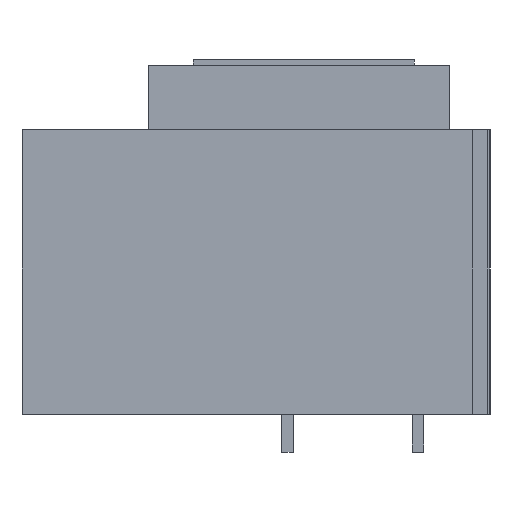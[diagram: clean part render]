
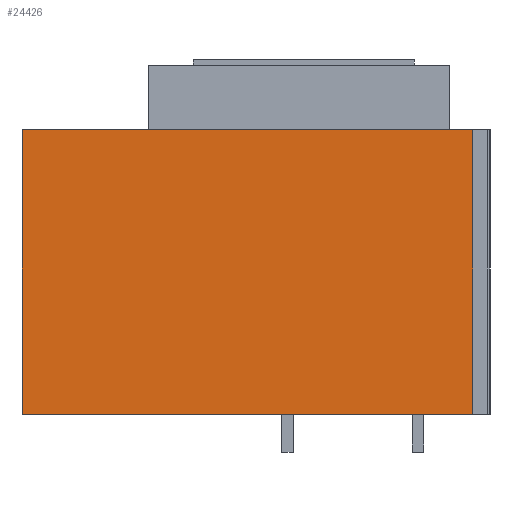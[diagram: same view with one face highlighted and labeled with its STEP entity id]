
A CAD part, left-side view. The second image highlights one B-rep face of the part: STEP entity #24426.
In plain terms, the highlighted planar face has unit normal (-1, 0, 0).
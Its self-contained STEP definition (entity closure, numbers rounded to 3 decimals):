
#684 = EDGE_CURVE ( 'NONE', #7224, #29230, #19613, .T. ) ;
#1022 = VERTEX_POINT ( 'NONE', #13638 ) ;
#4174 = VERTEX_POINT ( 'NONE', #9053 ) ;
#7224 = VERTEX_POINT ( 'NONE', #26076 ) ;
#8011 = EDGE_CURVE ( 'NONE', #7224, #4174, #26756, .T. ) ;
#8745 = DIRECTION ( 'NONE',  ( 0., 0., 1. ) ) ;
#8805 = CARTESIAN_POINT ( 'NONE',  ( -254., 0., -244.5 ) ) ;
#9053 = CARTESIAN_POINT ( 'NONE',  ( -254., 402., 0. ) ) ;
#9184 = EDGE_CURVE ( 'NONE', #4174, #1022, #27642, .T. ) ;
#9835 = VECTOR ( 'NONE', #8745, 1000. ) ;
#10101 = EDGE_CURVE ( 'NONE', #29230, #1022, #13278, .T. ) ;
#12056 = CARTESIAN_POINT ( 'NONE',  ( -254., 0., -244.5 ) ) ;
#13278 = LINE ( 'NONE', #23831, #20610 ) ;
#13638 = CARTESIAN_POINT ( 'NONE',  ( -254., 15., 0. ) ) ;
#16231 = ORIENTED_EDGE ( 'NONE', *, *, #10101, .T. ) ;
#16915 = EDGE_LOOP ( 'NONE', ( #35924, #29787, #23382, #16231 ) ) ;
#19613 = LINE ( 'NONE', #8805, #21726 ) ;
#20157 = DIRECTION ( 'NONE',  ( -1., 0., 0. ) ) ;
#20389 = DIRECTION ( 'NONE',  ( 0., -1., 0. ) ) ;
#20610 = VECTOR ( 'NONE', #20680, 1000. ) ;
#20680 = DIRECTION ( 'NONE',  ( 0., 0., 1. ) ) ;
#21726 = VECTOR ( 'NONE', #28472, 1000. ) ;
#22576 = PLANE ( 'NONE',  #24287 ) ;
#23382 = ORIENTED_EDGE ( 'NONE', *, *, #684, .T. ) ;
#23831 = CARTESIAN_POINT ( 'NONE',  ( -254., 15., -244.5 ) ) ;
#24287 = AXIS2_PLACEMENT_3D ( 'NONE', #12056, #20157, #20389 ) ;
#24426 = ADVANCED_FACE ( 'NONE', ( #27756 ), #22576, .T. ) ;
#26076 = CARTESIAN_POINT ( 'NONE',  ( -254., 402., -244.5 ) ) ;
#26756 = LINE ( 'NONE', #33011, #9835 ) ;
#27642 = LINE ( 'NONE', #29946, #28936 ) ;
#27756 = FACE_OUTER_BOUND ( 'NONE', #16915, .T. ) ;
#28472 = DIRECTION ( 'NONE',  ( 0., -1., 0. ) ) ;
#28936 = VECTOR ( 'NONE', #32958, 1000. ) ;
#29230 = VERTEX_POINT ( 'NONE', #35241 ) ;
#29787 = ORIENTED_EDGE ( 'NONE', *, *, #8011, .F. ) ;
#29946 = CARTESIAN_POINT ( 'NONE',  ( -254., 0., 0. ) ) ;
#32958 = DIRECTION ( 'NONE',  ( 0., -1., 0. ) ) ;
#33011 = CARTESIAN_POINT ( 'NONE',  ( -254., 402., -244.5 ) ) ;
#35241 = CARTESIAN_POINT ( 'NONE',  ( -254., 15., -244.5 ) ) ;
#35924 = ORIENTED_EDGE ( 'NONE', *, *, #9184, .F. ) ;
